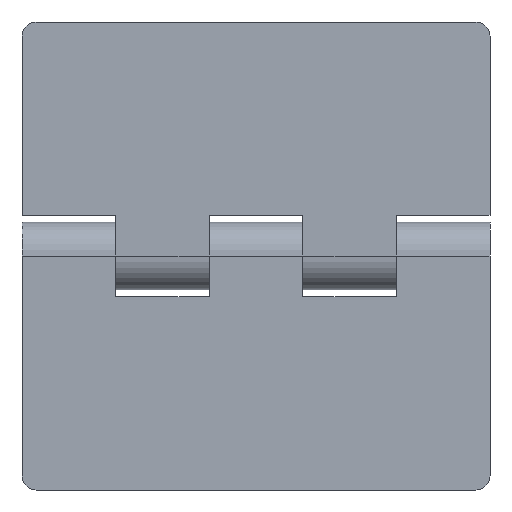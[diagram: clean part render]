
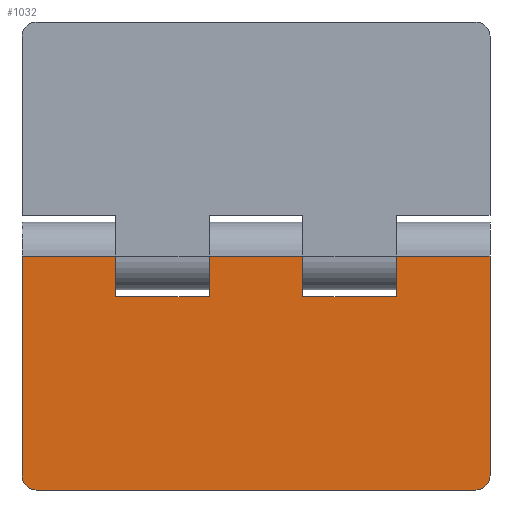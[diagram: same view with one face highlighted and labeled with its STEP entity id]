
A CAD part, front view. The second image highlights one B-rep face of the part: STEP entity #1032.
In plain terms, the highlighted planar face has unit normal (0, -1, 0).
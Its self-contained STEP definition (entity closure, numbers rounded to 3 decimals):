
#2 = LINE ( 'NONE', #935, #1819 ) ;
#13 = VECTOR ( 'NONE', #1372, 1000. ) ;
#73 = DIRECTION ( 'NONE',  ( 0., -1., 0. ) ) ;
#120 = EDGE_CURVE ( 'NONE', #934, #549, #599, .T. ) ;
#135 = VERTEX_POINT ( 'NONE', #423 ) ;
#169 = EDGE_CURVE ( 'NONE', #934, #1728, #480, .T. ) ;
#205 = CARTESIAN_POINT ( 'NONE',  ( 0., 0., 50. ) ) ;
#206 = VECTOR ( 'NONE', #758, 1000. ) ;
#220 = VECTOR ( 'NONE', #2078, 1000. ) ;
#236 = CARTESIAN_POINT ( 'NONE',  ( 0., 0., 30. ) ) ;
#241 = VERTEX_POINT ( 'NONE', #236 ) ;
#250 = ORIENTED_EDGE ( 'NONE', *, *, #169, .T. ) ;
#297 = ORIENTED_EDGE ( 'NONE', *, *, #908, .F. ) ;
#334 = DIRECTION ( 'NONE',  ( 1., 0., 0. ) ) ;
#339 = VERTEX_POINT ( 'NONE', #1401 ) ;
#343 = ORIENTED_EDGE ( 'NONE', *, *, #2208, .T. ) ;
#365 = CARTESIAN_POINT ( 'NONE',  ( 0., 0., 50. ) ) ;
#382 = EDGE_CURVE ( 'NONE', #1945, #1451, #868, .T. ) ;
#386 = LINE ( 'NONE', #762, #1142 ) ;
#423 = CARTESIAN_POINT ( 'NONE',  ( 0., 0., -30. ) ) ;
#434 = VECTOR ( 'NONE', #620, 1000. ) ;
#444 = CARTESIAN_POINT ( 'NONE',  ( -47., 0., 47. ) ) ;
#450 = ORIENTED_EDGE ( 'NONE', *, *, #928, .T. ) ;
#452 = CARTESIAN_POINT ( 'NONE',  ( -8.75, 0., 10. ) ) ;
#474 = CARTESIAN_POINT ( 'NONE',  ( -8.75, 0., 10. ) ) ;
#480 = CIRCLE ( 'NONE', #1607, 3. ) ;
#513 = EDGE_CURVE ( 'NONE', #339, #636, #522, .T. ) ;
#522 = LINE ( 'NONE', #205, #2086 ) ;
#549 = VERTEX_POINT ( 'NONE', #365 ) ;
#563 = DIRECTION ( 'NONE',  ( 0., -1., 0. ) ) ;
#584 = EDGE_CURVE ( 'NONE', #1728, #777, #1136, .T. ) ;
#587 = DIRECTION ( 'NONE',  ( -1., 0., 0. ) ) ;
#599 = LINE ( 'NONE', #1680, #2212 ) ;
#614 = VECTOR ( 'NONE', #1911, 1000. ) ;
#620 = DIRECTION ( 'NONE',  ( 0., 0., -1. ) ) ;
#632 = LINE ( 'NONE', #452, #1323 ) ;
#636 = VERTEX_POINT ( 'NONE', #1665 ) ;
#663 = CARTESIAN_POINT ( 'NONE',  ( 0., 0., 50. ) ) ;
#674 = LINE ( 'NONE', #1016, #614 ) ;
#692 = DIRECTION ( 'NONE',  ( -1., 0., 0. ) ) ;
#709 = CARTESIAN_POINT ( 'NONE',  ( -47., 0., -50. ) ) ;
#712 = DIRECTION ( 'NONE',  ( 1., 0., 0. ) ) ;
#713 = CARTESIAN_POINT ( 'NONE',  ( -47., 0., -47. ) ) ;
#758 = DIRECTION ( 'NONE',  ( -1., 0., 0. ) ) ;
#762 = CARTESIAN_POINT ( 'NONE',  ( 7.25, 0., 10. ) ) ;
#777 = VERTEX_POINT ( 'NONE', #1189 ) ;
#802 = LINE ( 'NONE', #2065, #13 ) ;
#845 = ORIENTED_EDGE ( 'NONE', *, *, #1935, .T. ) ;
#868 = LINE ( 'NONE', #1585, #220 ) ;
#878 = LINE ( 'NONE', #1457, #1251 ) ;
#908 = EDGE_CURVE ( 'NONE', #135, #1217, #802, .T. ) ;
#919 = VERTEX_POINT ( 'NONE', #1201 ) ;
#923 = EDGE_CURVE ( 'NONE', #1693, #919, #632, .T. ) ;
#928 = EDGE_CURVE ( 'NONE', #1451, #636, #878, .T. ) ;
#934 = VERTEX_POINT ( 'NONE', #1812 ) ;
#935 = CARTESIAN_POINT ( 'NONE',  ( 0., 0., -50. ) ) ;
#951 = CARTESIAN_POINT ( 'NONE',  ( -50., 0., 50. ) ) ;
#961 = CARTESIAN_POINT ( 'NONE',  ( -8.75, 0., -30. ) ) ;
#977 = ORIENTED_EDGE ( 'NONE', *, *, #120, .F. ) ;
#990 = EDGE_LOOP ( 'NONE', ( #1594, #1949, #845, #297, #1183, #1709, #450, #1554, #1785, #1165, #343, #2296, #977, #250 ) ) ;
#1016 = CARTESIAN_POINT ( 'NONE',  ( 7.25, 0., 30. ) ) ;
#1032 = ADVANCED_FACE ( 'NONE', ( #1596 ), #2325, .F. ) ;
#1033 = EDGE_CURVE ( 'NONE', #777, #2282, #2112, .T. ) ;
#1136 = LINE ( 'NONE', #951, #434 ) ;
#1142 = VECTOR ( 'NONE', #587, 1000. ) ;
#1151 = EDGE_CURVE ( 'NONE', #135, #1945, #2210, .T. ) ;
#1165 = ORIENTED_EDGE ( 'NONE', *, *, #923, .T. ) ;
#1183 = ORIENTED_EDGE ( 'NONE', *, *, #1151, .T. ) ;
#1189 = CARTESIAN_POINT ( 'NONE',  ( -50., 0., -47. ) ) ;
#1201 = CARTESIAN_POINT ( 'NONE',  ( -8.75, 0., 30. ) ) ;
#1217 = VERTEX_POINT ( 'NONE', #2019 ) ;
#1251 = VECTOR ( 'NONE', #334, 1000. ) ;
#1272 = DIRECTION ( 'NONE',  ( -1., 0., 0. ) ) ;
#1319 = DIRECTION ( 'NONE',  ( 1., 0., 0. ) ) ;
#1323 = VECTOR ( 'NONE', #1894, 1000. ) ;
#1372 = DIRECTION ( 'NONE',  ( 0., 0., -1. ) ) ;
#1390 = EDGE_CURVE ( 'NONE', #339, #1693, #386, .T. ) ;
#1401 = CARTESIAN_POINT ( 'NONE',  ( 0., 0., 10. ) ) ;
#1436 = DIRECTION ( 'NONE',  ( 0., 0., -1. ) ) ;
#1451 = VERTEX_POINT ( 'NONE', #2022 ) ;
#1457 = CARTESIAN_POINT ( 'NONE',  ( 7.25, 0., -10. ) ) ;
#1469 = CARTESIAN_POINT ( 'NONE',  ( 7.25, 0., -30. ) ) ;
#1479 = AXIS2_PLACEMENT_3D ( 'NONE', #713, #563, #692 ) ;
#1548 = CARTESIAN_POINT ( 'NONE',  ( -50., 0., 47. ) ) ;
#1554 = ORIENTED_EDGE ( 'NONE', *, *, #513, .F. ) ;
#1585 = CARTESIAN_POINT ( 'NONE',  ( -8.75, 0., -30. ) ) ;
#1589 = VECTOR ( 'NONE', #1948, 1000. ) ;
#1594 = ORIENTED_EDGE ( 'NONE', *, *, #584, .T. ) ;
#1596 = FACE_OUTER_BOUND ( 'NONE', #990, .T. ) ;
#1607 = AXIS2_PLACEMENT_3D ( 'NONE', #444, #73, #2066 ) ;
#1665 = CARTESIAN_POINT ( 'NONE',  ( 0., 0., -10. ) ) ;
#1680 = CARTESIAN_POINT ( 'NONE',  ( 0., 0., 50. ) ) ;
#1693 = VERTEX_POINT ( 'NONE', #474 ) ;
#1709 = ORIENTED_EDGE ( 'NONE', *, *, #382, .T. ) ;
#1728 = VERTEX_POINT ( 'NONE', #1548 ) ;
#1785 = ORIENTED_EDGE ( 'NONE', *, *, #1390, .T. ) ;
#1812 = CARTESIAN_POINT ( 'NONE',  ( -47., 0., 50. ) ) ;
#1819 = VECTOR ( 'NONE', #712, 1000. ) ;
#1894 = DIRECTION ( 'NONE',  ( 0., 0., 1. ) ) ;
#1911 = DIRECTION ( 'NONE',  ( 1., 0., 0. ) ) ;
#1924 = AXIS2_PLACEMENT_3D ( 'NONE', #2163, #2314, #1272 ) ;
#1935 = EDGE_CURVE ( 'NONE', #2282, #1217, #2, .T. ) ;
#1945 = VERTEX_POINT ( 'NONE', #961 ) ;
#1948 = DIRECTION ( 'NONE',  ( 0., 0., -1. ) ) ;
#1949 = ORIENTED_EDGE ( 'NONE', *, *, #1033, .T. ) ;
#2019 = CARTESIAN_POINT ( 'NONE',  ( 0., 0., -50. ) ) ;
#2022 = CARTESIAN_POINT ( 'NONE',  ( -8.75, 0., -10. ) ) ;
#2065 = CARTESIAN_POINT ( 'NONE',  ( 0., 0., 50. ) ) ;
#2066 = DIRECTION ( 'NONE',  ( -1., 0., 0. ) ) ;
#2078 = DIRECTION ( 'NONE',  ( 0., 0., 1. ) ) ;
#2082 = LINE ( 'NONE', #663, #1589 ) ;
#2086 = VECTOR ( 'NONE', #1436, 1000. ) ;
#2112 = CIRCLE ( 'NONE', #1479, 3. ) ;
#2163 = CARTESIAN_POINT ( 'NONE',  ( 0., 0., 50. ) ) ;
#2181 = EDGE_CURVE ( 'NONE', #549, #241, #2082, .T. ) ;
#2208 = EDGE_CURVE ( 'NONE', #919, #241, #674, .T. ) ;
#2210 = LINE ( 'NONE', #1469, #206 ) ;
#2212 = VECTOR ( 'NONE', #1319, 1000. ) ;
#2282 = VERTEX_POINT ( 'NONE', #709 ) ;
#2296 = ORIENTED_EDGE ( 'NONE', *, *, #2181, .F. ) ;
#2314 = DIRECTION ( 'NONE',  ( 0., 1., 0. ) ) ;
#2325 = PLANE ( 'NONE',  #1924 ) ;
